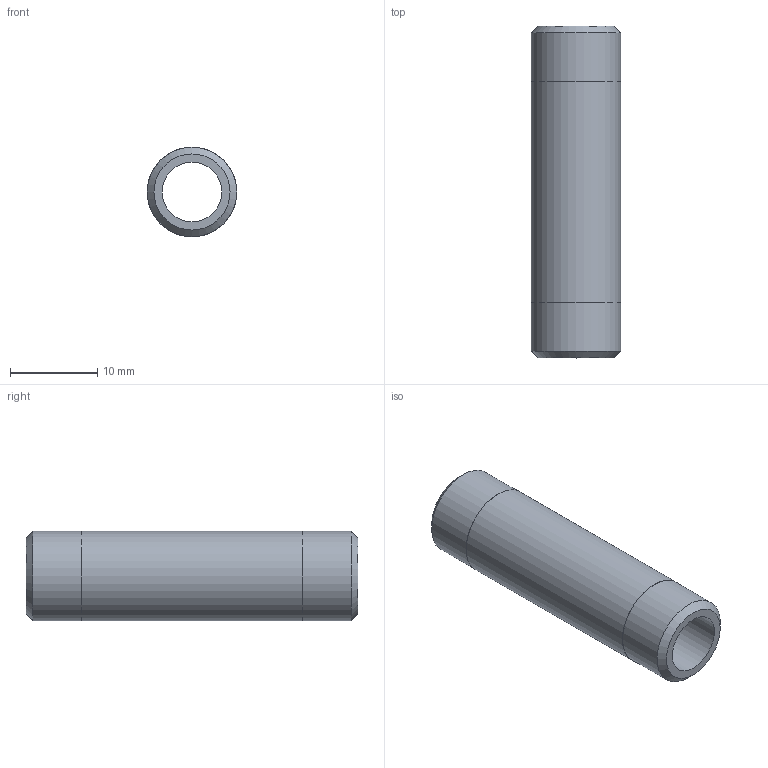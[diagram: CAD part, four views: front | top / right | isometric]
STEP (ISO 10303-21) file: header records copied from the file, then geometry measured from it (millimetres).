
FILE_DESCRIPTION(/* description */ (''),/* implementation_level */ '2;1');
FILE_NAME(/* name */ 'C:/Users/drich/Desktop/BPN18-1-1_2 v1.step',/* time_stamp */ '2020-01-03T14:47:38-06:00',/* author */ (''),/* organization */ (''),/* preprocessor_version */ 'ST-DEVELOPER v18',/* originating_system */ 'Autodesk Translation Framework v8.12.0.6',/* authorisation */ '');
FILE_SCHEMA (('AUTOMOTIVE_DESIGN { 1 0 10303 214 3 1 1 }'));
Length unit declared in the file: inch
Products named in the file (1): BPN18-1-1_2
Bounding box: 10.31 x 38.1 x 10.31 mm (x, y, z)
Volume: 1757.1 mm3; surface area: 2113.6 mm2
Topology: 1 solids, 1 shells, 10 faces, 24 edges, 18 vertices
Faces by surface type: cylinder 4, plane 4, cone 2
Full cylindrical faces by diameter (mm): 6.833 x1, 10.262 x2, 10.312 x1
Entity records: 360 total; most frequent: DIRECTION 64, CARTESIAN_POINT 53, ORIENTED_EDGE 48, AXIS2_PLACEMENT_3D 29, EDGE_CURVE 24, CIRCLE 18, VERTEX_POINT 18, EDGE_LOOP 14
